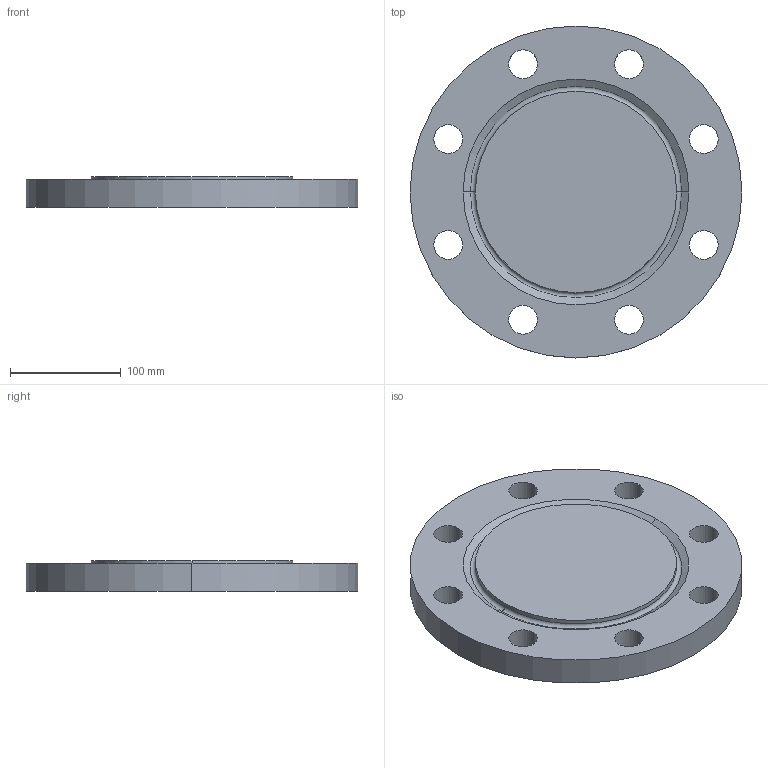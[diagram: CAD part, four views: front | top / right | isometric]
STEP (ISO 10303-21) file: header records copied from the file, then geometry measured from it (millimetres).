
FILE_DESCRIPTION (( 'STEP AP214' ), '1' );
FILE_NAME ('PN40 DN150 Type 05 - Type H Face.STEP', '2019-01-05T00:16:08', ( '' ), ( '' ), 'SwSTEP 2.0', 'SolidWorks 2019', '' );
FILE_SCHEMA (( 'AUTOMOTIVE_DESIGN' ));
Length unit declared in the file: millimetre
Products named in the file (1): PN40 DN150 Type 05 - Type H Face
Bounding box: 300 x 300 x 28 mm (x, y, z)
Volume: 1740404.1 mm3; surface area: 177620.2 mm2
Topology: 1 solids, 1 shells, 27 faces, 68 edges, 44 vertices
Faces by surface type: cylinder 20, plane 3, torus 2, cone 2
Entity records: 902 total; most frequent: DIRECTION 170, CARTESIAN_POINT 140, ORIENTED_EDGE 136, AXIS2_PLACEMENT_3D 74, EDGE_CURVE 68, CIRCLE 46, EDGE_LOOP 44, VERTEX_POINT 44
